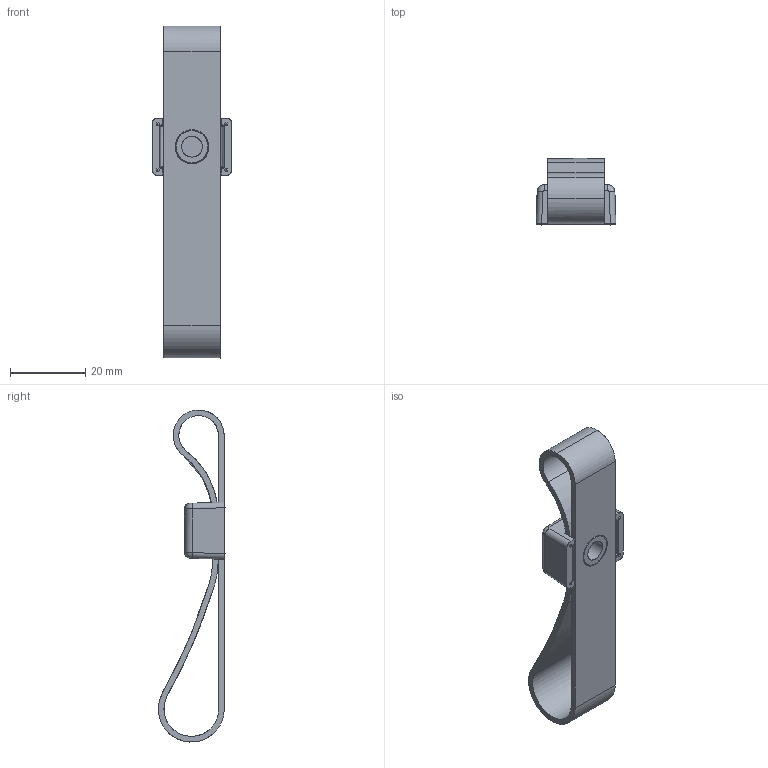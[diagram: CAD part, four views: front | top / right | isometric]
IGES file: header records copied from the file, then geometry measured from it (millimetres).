
Start section: C
Global section: file name: 8228-90.igs; native system: By Siemens PLM Incorporated; preprocessor: XPlus GENERIC/IGES 16.0.42; author: Author; organization: Title; date: 20220504.153646; units: millimetre
Bounding box: 21.2 x 17.85 x 88.01 mm (x, y, z)
Surface area: 8166 mm2 (no closed solid volume)
Topology: 0 solids, 0 shells, 69 faces, 390 edges, 386 vertices
Faces by surface type: bspline 69
